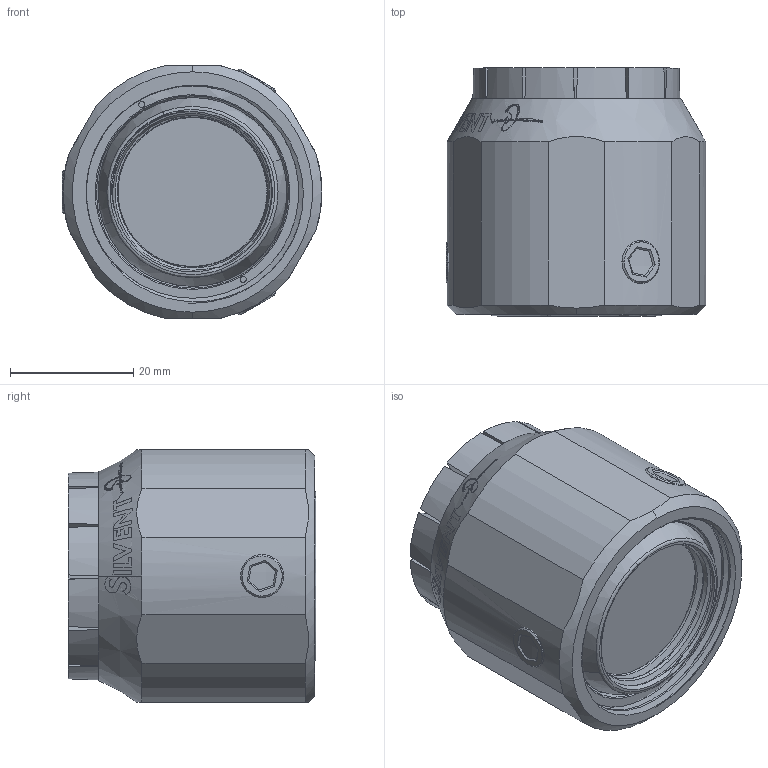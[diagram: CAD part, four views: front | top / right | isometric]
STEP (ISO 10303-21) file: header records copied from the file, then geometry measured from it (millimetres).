
FILE_DESCRIPTION (( 'STEP AP203' ), '1' );
FILE_NAME ('Silvent 710 L TA.STEP', '2019-11-11T13:59:31', ( '' ), ( '' ), 'SwSTEP 2.0', 'SolidWorks 2016', '' );
FILE_SCHEMA (( 'CONFIG_CONTROL_DESIGN' ));
Length unit declared in the file: millimetre
Products named in the file (2): Silvent 710 L TA
Bounding box: 42.15 x 40.23 x 41 mm (x, y, z)
Surface area: 19370.2 mm2 (no closed solid volume)
Topology: 0 solids, 2 shells, 300 faces, 1865 edges, 1554 vertices
Faces by surface type: plane 102, bspline 89, cylinder 79, cone 30
Entity records: 31285 total; most frequent: CARTESIAN_POINT 20383, ORIENTED_EDGE 2903, EDGE_CURVE 1859, VERTEX_POINT 1553, B_SPLINE_CURVE_WITH_KNOTS 1380, DIRECTION 874, EDGE_LOOP 326, ADVANCED_FACE 298
